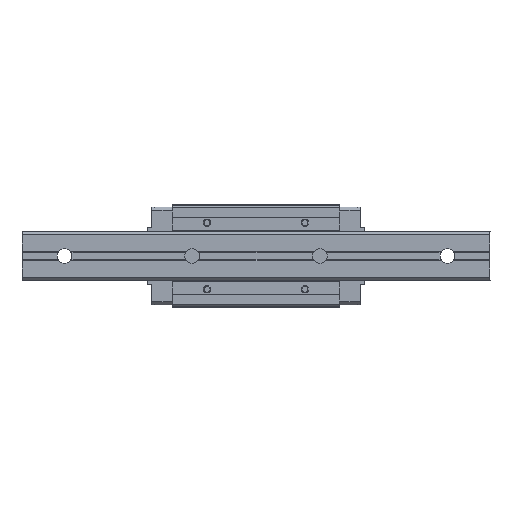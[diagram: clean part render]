
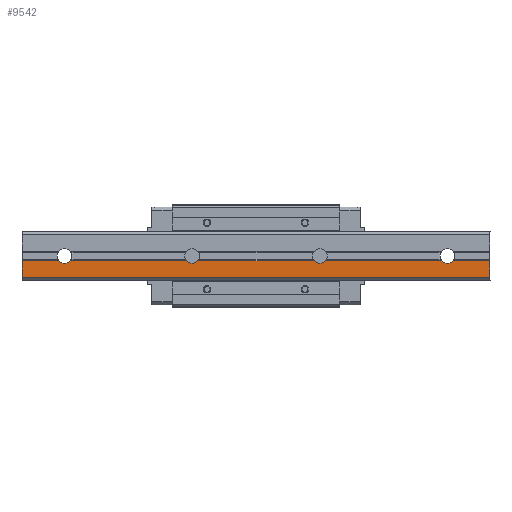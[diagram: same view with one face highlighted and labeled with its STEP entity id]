
A CAD part, front view. The second image highlights one B-rep face of the part: STEP entity #9542.
In plain terms, the highlighted planar face has unit normal (0, -1, 0).
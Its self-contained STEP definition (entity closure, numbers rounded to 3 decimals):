
#5 = EDGE_CURVE ( 'NONE', #5611, #4557, #10149, .T. ) ;
#80 = ORIENTED_EDGE ( 'NONE', *, *, #5216, .T. ) ;
#266 = CARTESIAN_POINT ( 'NONE',  ( 120., 0., 0. ) ) ;
#300 = VECTOR ( 'NONE', #2407, 1000. ) ;
#423 = EDGE_CURVE ( 'NONE', #6620, #9892, #8726, .T. ) ;
#729 = ORIENTED_EDGE ( 'NONE', *, *, #887, .T. ) ;
#887 = EDGE_CURVE ( 'NONE', #4636, #6620, #2067, .T. ) ;
#1174 = DIRECTION ( 'NONE',  ( 0., 1., 0. ) ) ;
#1217 = EDGE_CURVE ( 'NONE', #1290, #6491, #6434, .T. ) ;
#1290 = VERTEX_POINT ( 'NONE', #5424 ) ;
#1371 = AXIS2_PLACEMENT_3D ( 'NONE', #5972, #9962, #3380 ) ;
#1377 = DIRECTION ( 'NONE',  ( 0., 0., -1. ) ) ;
#1488 = CARTESIAN_POINT ( 'NONE',  ( -20., 0., -10. ) ) ;
#1492 = CARTESIAN_POINT ( 'NONE',  ( 200., 0., -2.25 ) ) ;
#1644 = ORIENTED_EDGE ( 'NONE', *, *, #7469, .T. ) ;
#1687 = VECTOR ( 'NONE', #4719, 1000. ) ;
#1705 = VECTOR ( 'NONE', #7838, 1000. ) ;
#1751 = DIRECTION ( 'NONE',  ( -1., 0., 0. ) ) ;
#1753 = EDGE_CURVE ( 'NONE', #9293, #9104, #5385, .T. ) ;
#1852 = LINE ( 'NONE', #8803, #8338 ) ;
#1892 = CARTESIAN_POINT ( 'NONE',  ( -20., 0., -2.25 ) ) ;
#1895 = DIRECTION ( 'NONE',  ( 0., 0., -1. ) ) ;
#1913 = ORIENTED_EDGE ( 'NONE', *, *, #2614, .T. ) ;
#1932 = DIRECTION ( 'NONE',  ( 0., 0., -1. ) ) ;
#2005 = CARTESIAN_POINT ( 'NONE',  ( 60., 0., 0. ) ) ;
#2065 = VERTEX_POINT ( 'NONE', #5781 ) ;
#2067 = CIRCLE ( 'NONE', #9845, 3.5 ) ;
#2116 = CARTESIAN_POINT ( 'NONE',  ( -20., 0., -2.25 ) ) ;
#2118 = CARTESIAN_POINT ( 'NONE',  ( 117.319, 0., -2.25 ) ) ;
#2179 = CARTESIAN_POINT ( 'NONE',  ( -20., 0., -2.25 ) ) ;
#2184 = EDGE_CURVE ( 'NONE', #4834, #9704, #8491, .T. ) ;
#2304 = AXIS2_PLACEMENT_3D ( 'NONE', #2005, #3653, #6913 ) ;
#2404 = DIRECTION ( 'NONE',  ( 0., 0., -1. ) ) ;
#2407 = DIRECTION ( 'NONE',  ( -1., 0., 0. ) ) ;
#2614 = EDGE_CURVE ( 'NONE', #9104, #1290, #7841, .T. ) ;
#2732 = DIRECTION ( 'NONE',  ( 0., 0., -1. ) ) ;
#2738 = PLANE ( 'NONE',  #6097 ) ;
#2744 = CARTESIAN_POINT ( 'NONE',  ( 57.319, 0., -2.25 ) ) ;
#2847 = CARTESIAN_POINT ( 'NONE',  ( 180., 0., -3.5 ) ) ;
#3054 = ORIENTED_EDGE ( 'NONE', *, *, #5, .F. ) ;
#3174 = CARTESIAN_POINT ( 'NONE',  ( 182.681, 0., -2.25 ) ) ;
#3380 = DIRECTION ( 'NONE',  ( 0., 0., -1. ) ) ;
#3419 = ORIENTED_EDGE ( 'NONE', *, *, #9719, .T. ) ;
#3598 = ORIENTED_EDGE ( 'NONE', *, *, #9294, .F. ) ;
#3653 = DIRECTION ( 'NONE',  ( 0., 1., 0. ) ) ;
#3829 = CARTESIAN_POINT ( 'NONE',  ( 120., 0., 0. ) ) ;
#3849 = VERTEX_POINT ( 'NONE', #10616 ) ;
#4237 = DIRECTION ( 'NONE',  ( -1., 0., 0. ) ) ;
#4557 = VERTEX_POINT ( 'NONE', #10414 ) ;
#4596 = CARTESIAN_POINT ( 'NONE',  ( 60., 0., 0. ) ) ;
#4636 = VERTEX_POINT ( 'NONE', #4662 ) ;
#4662 = CARTESIAN_POINT ( 'NONE',  ( 60., 0., -3.5 ) ) ;
#4719 = DIRECTION ( 'NONE',  ( -1., 0., 0. ) ) ;
#4745 = CARTESIAN_POINT ( 'NONE',  ( -20., 0., -2.25 ) ) ;
#4834 = VERTEX_POINT ( 'NONE', #9483 ) ;
#4961 = VERTEX_POINT ( 'NONE', #4745 ) ;
#5216 = EDGE_CURVE ( 'NONE', #2065, #4961, #10152, .T. ) ;
#5224 = CARTESIAN_POINT ( 'NONE',  ( 180., 0., 0. ) ) ;
#5226 = VECTOR ( 'NONE', #2404, 1000. ) ;
#5258 = CARTESIAN_POINT ( 'NONE',  ( -20., 0., -10. ) ) ;
#5264 = DIRECTION ( 'NONE',  ( 0., 0., -1. ) ) ;
#5385 = CIRCLE ( 'NONE', #10347, 3.5 ) ;
#5415 = DIRECTION ( 'NONE',  ( 0., 1., 0. ) ) ;
#5424 = CARTESIAN_POINT ( 'NONE',  ( 177.319, 0., -2.25 ) ) ;
#5482 = DIRECTION ( 'NONE',  ( 0., 1., 0. ) ) ;
#5518 = FACE_OUTER_BOUND ( 'NONE', #10766, .T. ) ;
#5611 = VERTEX_POINT ( 'NONE', #1492 ) ;
#5781 = CARTESIAN_POINT ( 'NONE',  ( -2.681, 0., -2.25 ) ) ;
#5867 = ORIENTED_EDGE ( 'NONE', *, *, #6764, .T. ) ;
#5972 = CARTESIAN_POINT ( 'NONE',  ( 180., 0., 0. ) ) ;
#6016 = DIRECTION ( 'NONE',  ( 0., 1., 0. ) ) ;
#6097 = AXIS2_PLACEMENT_3D ( 'NONE', #5258, #8564, #1932 ) ;
#6260 = DIRECTION ( 'NONE',  ( 0., 0., -1. ) ) ;
#6381 = AXIS2_PLACEMENT_3D ( 'NONE', #10503, #8053, #8122 ) ;
#6434 = LINE ( 'NONE', #1892, #8893 ) ;
#6491 = VERTEX_POINT ( 'NONE', #8420 ) ;
#6552 = LINE ( 'NONE', #2116, #1705 ) ;
#6576 = CARTESIAN_POINT ( 'NONE',  ( 0., 0., -3.5 ) ) ;
#6620 = VERTEX_POINT ( 'NONE', #2744 ) ;
#6684 = CARTESIAN_POINT ( 'NONE',  ( 62.681, 0., -2.25 ) ) ;
#6764 = EDGE_CURVE ( 'NONE', #6491, #4834, #7817, .T. ) ;
#6912 = DIRECTION ( 'NONE',  ( 0., 1., 0. ) ) ;
#6913 = DIRECTION ( 'NONE',  ( 0., 0., -1. ) ) ;
#6979 = VERTEX_POINT ( 'NONE', #6684 ) ;
#7102 = LINE ( 'NONE', #1488, #300 ) ;
#7386 = ORIENTED_EDGE ( 'NONE', *, *, #423, .T. ) ;
#7411 = CIRCLE ( 'NONE', #2304, 3.5 ) ;
#7469 = EDGE_CURVE ( 'NONE', #6979, #4636, #7411, .T. ) ;
#7539 = ORIENTED_EDGE ( 'NONE', *, *, #1217, .T. ) ;
#7640 = EDGE_CURVE ( 'NONE', #8729, #2065, #7922, .T. ) ;
#7714 = VECTOR ( 'NONE', #1377, 1000. ) ;
#7733 = AXIS2_PLACEMENT_3D ( 'NONE', #266, #6912, #1895 ) ;
#7817 = CIRCLE ( 'NONE', #10268, 3.5 ) ;
#7838 = DIRECTION ( 'NONE',  ( -1., 0., 0. ) ) ;
#7841 = CIRCLE ( 'NONE', #1371, 3.5 ) ;
#7922 = CIRCLE ( 'NONE', #8451, 3.5 ) ;
#7954 = DIRECTION ( 'NONE',  ( 0., 0., -1. ) ) ;
#8053 = DIRECTION ( 'NONE',  ( 0., 1., 0. ) ) ;
#8112 = CIRCLE ( 'NONE', #6381, 3.5 ) ;
#8122 = DIRECTION ( 'NONE',  ( 0., 0., -1. ) ) ;
#8170 = CARTESIAN_POINT ( 'NONE',  ( 200., 0., 0. ) ) ;
#8182 = ORIENTED_EDGE ( 'NONE', *, *, #2184, .T. ) ;
#8230 = VECTOR ( 'NONE', #1751, 1000. ) ;
#8250 = EDGE_CURVE ( 'NONE', #9704, #6979, #6552, .T. ) ;
#8338 = VECTOR ( 'NONE', #8707, 1000. ) ;
#8373 = EDGE_CURVE ( 'NONE', #4961, #3849, #9521, .T. ) ;
#8418 = EDGE_CURVE ( 'NONE', #9892, #8729, #8112, .T. ) ;
#8420 = CARTESIAN_POINT ( 'NONE',  ( 122.681, 0., -2.25 ) ) ;
#8451 = AXIS2_PLACEMENT_3D ( 'NONE', #10228, #1174, #5264 ) ;
#8491 = CIRCLE ( 'NONE', #7733, 3.5 ) ;
#8564 = DIRECTION ( 'NONE',  ( 0., -1., 0. ) ) ;
#8707 = DIRECTION ( 'NONE',  ( -1., 0., 0. ) ) ;
#8726 = LINE ( 'NONE', #2179, #1687 ) ;
#8729 = VERTEX_POINT ( 'NONE', #6576 ) ;
#8803 = CARTESIAN_POINT ( 'NONE',  ( -20., 0., -2.25 ) ) ;
#8893 = VECTOR ( 'NONE', #4237, 1000. ) ;
#8970 = ORIENTED_EDGE ( 'NONE', *, *, #1753, .T. ) ;
#9104 = VERTEX_POINT ( 'NONE', #2847 ) ;
#9293 = VERTEX_POINT ( 'NONE', #3174 ) ;
#9294 = EDGE_CURVE ( 'NONE', #4557, #3849, #7102, .T. ) ;
#9483 = CARTESIAN_POINT ( 'NONE',  ( 120., 0., -3.5 ) ) ;
#9521 = LINE ( 'NONE', #10459, #7714 ) ;
#9542 = ADVANCED_FACE ( 'NONE', ( #5518 ), #2738, .T. ) ;
#9608 = ORIENTED_EDGE ( 'NONE', *, *, #8418, .T. ) ;
#9704 = VERTEX_POINT ( 'NONE', #2118 ) ;
#9719 = EDGE_CURVE ( 'NONE', #5611, #9293, #1852, .T. ) ;
#9845 = AXIS2_PLACEMENT_3D ( 'NONE', #4596, #5415, #6260 ) ;
#9892 = VERTEX_POINT ( 'NONE', #10657 ) ;
#9938 = ORIENTED_EDGE ( 'NONE', *, *, #8373, .T. ) ;
#9944 = ORIENTED_EDGE ( 'NONE', *, *, #8250, .T. ) ;
#9962 = DIRECTION ( 'NONE',  ( 0., 1., 0. ) ) ;
#10026 = CARTESIAN_POINT ( 'NONE',  ( -20., 0., -2.25 ) ) ;
#10133 = ORIENTED_EDGE ( 'NONE', *, *, #7640, .T. ) ;
#10149 = LINE ( 'NONE', #8170, #5226 ) ;
#10152 = LINE ( 'NONE', #10026, #8230 ) ;
#10228 = CARTESIAN_POINT ( 'NONE',  ( 0., 0., 0. ) ) ;
#10268 = AXIS2_PLACEMENT_3D ( 'NONE', #3829, #5482, #7954 ) ;
#10347 = AXIS2_PLACEMENT_3D ( 'NONE', #5224, #6016, #2732 ) ;
#10414 = CARTESIAN_POINT ( 'NONE',  ( 200., 0., -10. ) ) ;
#10459 = CARTESIAN_POINT ( 'NONE',  ( -20., 0., 0. ) ) ;
#10503 = CARTESIAN_POINT ( 'NONE',  ( 0., 0., 0. ) ) ;
#10616 = CARTESIAN_POINT ( 'NONE',  ( -20., 0., -10. ) ) ;
#10657 = CARTESIAN_POINT ( 'NONE',  ( 2.681, 0., -2.25 ) ) ;
#10766 = EDGE_LOOP ( 'NONE', ( #5867, #8182, #9944, #1644, #729, #7386, #9608, #10133, #80, #9938, #3598, #3054, #3419, #8970, #1913, #7539 ) ) ;
